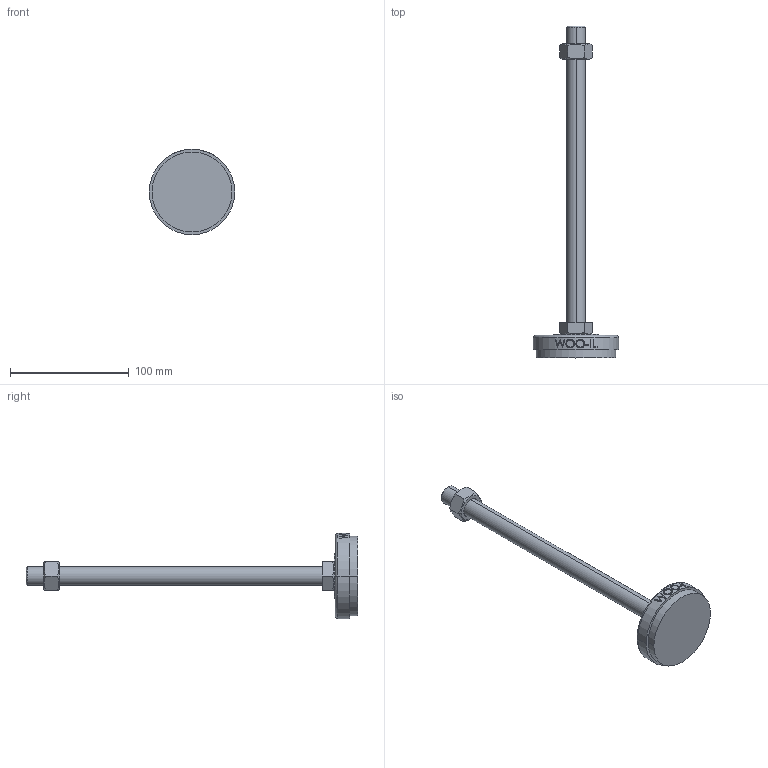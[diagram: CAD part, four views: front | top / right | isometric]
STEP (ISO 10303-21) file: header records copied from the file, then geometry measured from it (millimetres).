
FILE_DESCRIPTION (( 'STEP AP214' ), '1' );
FILE_NAME ('NS72-M16-250.step', '2021-01-11T05:47:49', ( '' ), ( '' ), 'SwSTEP 2.0', 'SolidWorks 2019', '' );
FILE_SCHEMA (( 'AUTOMOTIVE_DESIGN' ));
Length unit declared in the file: millimetre
Products named in the file (2): NS72-M16-250
Bounding box: 72 x 280 x 72 mm (x, y, z)
Volume: 133728.7 mm3; surface area: 28823 mm2
Topology: 3 solids, 3 shells, 96 faces, 223 edges, 144 vertices
Faces by surface type: plane 48, cylinder 18, bspline 16, cone 12, torus 2
Entity records: 4262 total; most frequent: CARTESIAN_POINT 2137, ORIENTED_EDGE 446, DIRECTION 381, EDGE_CURVE 223, VERTEX_POINT 144, AXIS2_PLACEMENT_3D 142, EDGE_LOOP 109, VECTOR 97
